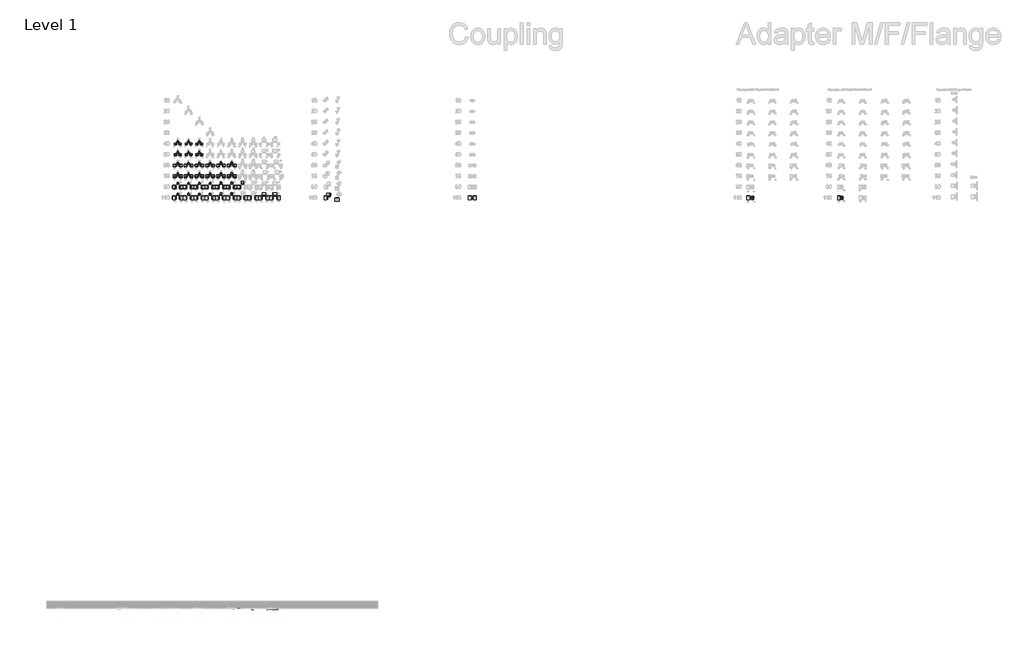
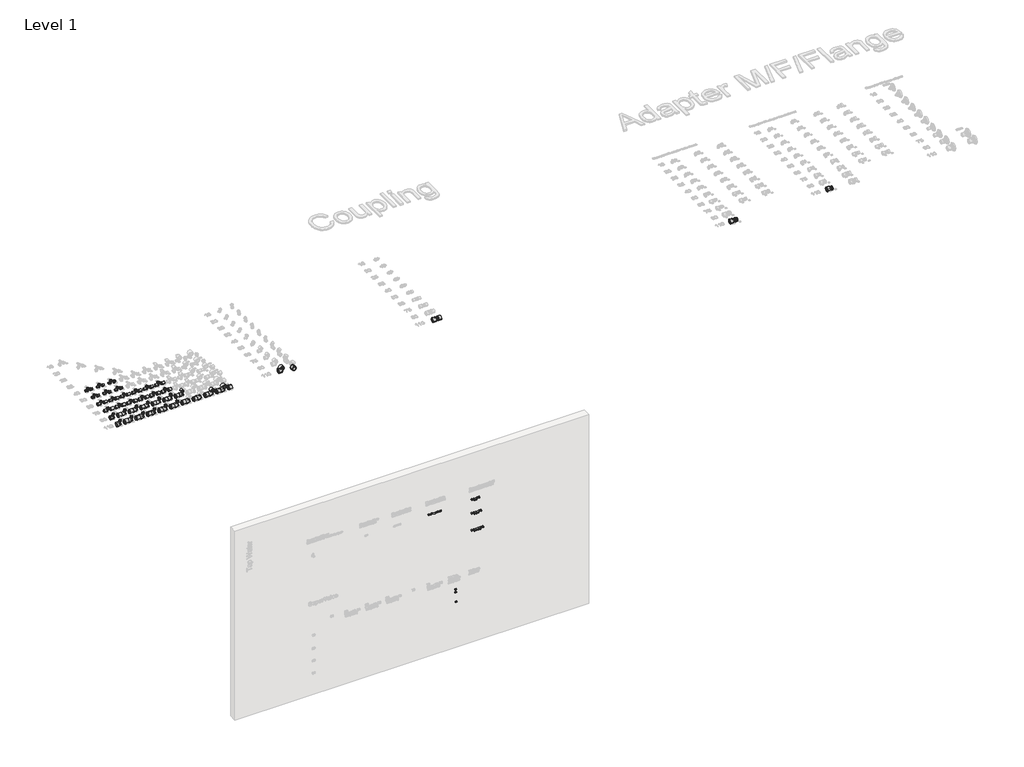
# One storey, part 2 of 58: 126 pipe fittings, 7 valves.
"""IFC4 building model written with IfcOpenShell, lengths in millimetres."""

from ifc_helpers import new_model, si_unit, origin, place, context, project, spatial, transform, mapped, element, save
from components import pipe_fitting_fd43bd29, manifold_cap_ft_2143a354, manifold_cap_mt_88d565de, rs_adapter_8da40ca7, rs_adapter_b4bbd465, rs_adapter_f82712ed, rs_adapter_ef84fdb0, rs_adapter_c6cd646c, rs_adapter_ed761ce0, rs_adapter_634e7d73, rs_adapter_fc67200b, rs_adapter_b700a1d7, rs_adapter_1ad0a11d, rs_female_adapter_0a1702e8, rs_male_adapter_f12c7176, manifold_baea2700, manifold_b658bd2c, manifold_a6c2bfd1, mounting_plate_curved_e86a9517, valve_ad88a9f9, valve_6c7f2e19, valve_fd31198a

model = new_model("IFC4")

# Units and contexts
model_context = context("Model", 3, world=origin())
ifc_project = project(units=[si_unit("LENGTHUNIT", "METRE", prefix="MILLI")], contexts=[model_context])

# Site, building, storey
site = spatial("IfcSite", under=ifc_project)
building = spatial("IfcBuilding", under=site)
storey = spatial("IfcBuildingStorey", under=building, Name="Level 1", Elevation=27.3876384)

# Pipe fittings
placement = place(None, origin())
pipe_fitting_shape = pipe_fitting_fd43bd29(model_context)
element("IfcPipeFitting", 1, ObjectType="Compression Adapter 1/2\"FT : Superpipe Compression Adapter", at=placement, inside=storey, context=model_context, shape_type="MappedRepresentation", body=[
    mapped(pipe_fitting_shape, transform((15832.3970974, 4511.8440939, 3928.2014319), x_axis=(0.0, 0.0, 1.0000000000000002), y_axis=(0.0, 1.0000000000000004, 0.0), z_axis=(-1.0000000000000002, 0.0, 0.0))),
])
element("IfcPipeFitting", 2, ObjectType="Compression Adapter 1/2\"FT : Superpipe Compression Adapter", at=placement, inside=storey, context=model_context, shape_type="MappedRepresentation", body=[
    mapped(pipe_fitting_shape, transform((15882.3970974, 4511.8440939, 3928.2014319), x_axis=(0.0, 0.0, 1.0000000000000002), y_axis=(0.0, 1.0000000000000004, 0.0), z_axis=(-1.0000000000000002, 0.0, 0.0))),
])
element("IfcPipeFitting", 3, ObjectType="Compression Adapter 1/2\"FT : Superpipe Compression Adapter", at=placement, inside=storey, context=model_context, shape_type="MappedRepresentation", body=[
    mapped(pipe_fitting_shape, transform((15832.3970974, 4511.8440939, 3550.5915778), x_axis=(0.0, 0.0, 1.0000000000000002), y_axis=(0.0, 1.0000000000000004, 0.0), z_axis=(-1.0000000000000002, 0.0, 0.0))),
])
element("IfcPipeFitting", 4, ObjectType="Compression Adapter 1/2\"FT : Superpipe Compression Adapter", at=placement, inside=storey, context=model_context, shape_type="MappedRepresentation", body=[
    mapped(pipe_fitting_shape, transform((15882.3970974, 4511.8440939, 3550.5915778), x_axis=(0.0, 0.0, 1.0000000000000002), y_axis=(0.0, 1.0000000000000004, 0.0), z_axis=(-1.0000000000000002, 0.0, 0.0))),
])
element("IfcPipeFitting", 5, ObjectType="Compression Adapter 1/2\"FT : Superpipe Compression Adapter", at=placement, inside=storey, context=model_context, shape_type="MappedRepresentation", body=[
    mapped(pipe_fitting_shape, transform((15932.3970974, 4511.8440939, 3550.5915778), x_axis=(0.0, 0.0, 1.0000000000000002), y_axis=(0.0, 1.0000000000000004, 0.0), z_axis=(-1.0000000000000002, 0.0, 0.0))),
])
element("IfcPipeFitting", 6, ObjectType="Compression Adapter 1/2\"FT : Superpipe Compression Adapter", at=placement, inside=storey, context=model_context, shape_type="MappedRepresentation", body=[
    mapped(pipe_fitting_shape, transform((15832.3970974, 4511.8440939, 3084.9820677), x_axis=(0.0, 0.0, 1.0000000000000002), y_axis=(0.0, 1.0000000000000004, 0.0), z_axis=(-1.0000000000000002, 0.0, 0.0))),
])
element("IfcPipeFitting", 7, ObjectType="Compression Adapter 1/2\"FT : Superpipe Compression Adapter", at=placement, inside=storey, context=model_context, shape_type="MappedRepresentation", body=[
    mapped(pipe_fitting_shape, transform((15882.3970974, 4511.8440939, 3084.9820677), x_axis=(0.0, 0.0, 1.0000000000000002), y_axis=(0.0, 1.0000000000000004, 0.0), z_axis=(-1.0000000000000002, 0.0, 0.0))),
])
element("IfcPipeFitting", 8, ObjectType="Compression Adapter 1/2\"FT : Superpipe Compression Adapter", at=placement, inside=storey, context=model_context, shape_type="MappedRepresentation", body=[
    mapped(pipe_fitting_shape, transform((15932.3970974, 4511.8440939, 3084.9820677), x_axis=(0.0, 0.0, 1.0000000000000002), y_axis=(0.0, 1.0000000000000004, 0.0), z_axis=(-1.0000000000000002, 0.0, 0.0))),
])
element("IfcPipeFitting", 9, ObjectType="Compression Adapter 1/2\"FT : Superpipe Compression Adapter", at=placement, inside=storey, context=model_context, shape_type="MappedRepresentation", body=[
    mapped(pipe_fitting_shape, transform((15982.3970974, 4511.8440939, 3084.9820677), x_axis=(0.0, 0.0, 1.0000000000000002), y_axis=(0.0, 1.0000000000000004, 0.0), z_axis=(-1.0000000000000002, 0.0, 0.0))),
])
manifold_cap_ft_shape = manifold_cap_ft_2143a354(model_context)
element("IfcPipeFitting", 10, ObjectType="Manifold Cap FT : Superpipe Manifold Cap With Seal- 1\" FT", at=placement, inside=storey, context=model_context, shape_type="MappedRepresentation", body=[
    mapped(manifold_cap_ft_shape, transform((15768.3970974, 4511.8440939, 3974.0856598), x_axis=(-1.0, 0.0, 0.0), y_axis=(0.0, -1.0, 0.0), z_axis=(0.0, 0.0, 1.0))),
])
element("IfcPipeFitting", 11, ObjectType="Manifold Cap FT : Superpipe Manifold Cap With Seal- 1\" FT", at=placement, inside=storey, context=model_context, shape_type="MappedRepresentation", body=[
    mapped(manifold_cap_ft_shape, transform((15768.3970974, 4511.8440939, 3596.4758057), x_axis=(-1.0, 0.0, 0.0), y_axis=(0.0, -1.0, 0.0), z_axis=(0.0, 0.0, 1.0))),
])
element("IfcPipeFitting", 12, ObjectType="Manifold Cap FT : Superpipe Manifold Cap With Seal- 1\" FT", at=placement, inside=storey, context=model_context, shape_type="MappedRepresentation", body=[
    mapped(manifold_cap_ft_shape, transform((15768.3970974, 4511.8440939, 3130.8662956), x_axis=(-1.0, 0.0, 0.0), y_axis=(0.0, -1.0, 0.0), z_axis=(0.0, 0.0, 1.0))),
])
manifold_cap_mt_shape = manifold_cap_mt_88d565de(model_context)
element("IfcPipeFitting", 13, ObjectType="Manifold Cap MT : Superpipe manifold Cap with seal- 1“MT", at=placement, inside=storey, context=model_context, shape_type="MappedRepresentation", body=[
    mapped(manifold_cap_mt_shape, transform((15941.7970974, 4511.8440939, 3974.0856598), x_axis=(1.0, 0.0, 0.0), y_axis=(0.0, -1.0, 0.0), z_axis=(0.0, 0.0, -1.0))),
])
element("IfcPipeFitting", 14, ObjectType="Manifold Cap MT : Superpipe manifold Cap with seal- 1“MT", at=placement, inside=storey, context=model_context, shape_type="MappedRepresentation", body=[
    mapped(manifold_cap_mt_shape, transform((15991.7970974, 4511.8440939, 3596.4755454), x_axis=(1.0, 0.0, 0.0), y_axis=(0.0, -1.0, 0.0), z_axis=(0.0, 0.0, -1.0))),
])
element("IfcPipeFitting", 15, ObjectType="Manifold Cap MT : Superpipe manifold Cap with seal- 1“MT", at=placement, inside=storey, context=model_context, shape_type="MappedRepresentation", body=[
    mapped(manifold_cap_mt_shape, transform((16041.7970974, 4511.8440939, 3130.8660352), x_axis=(1.0, 0.0, 0.0), y_axis=(0.0, -1.0, 0.0), z_axis=(0.0, 0.0, -1.0))),
])
rs_adapter_shape = rs_adapter_8da40ca7(model_context)
element("IfcPipeFitting", 16, ObjectType="RS Adapter : Superpipe RS Press Adapter", at=placement, inside=storey, context=model_context, shape_type="MappedRepresentation", body=[
    mapped(rs_adapter_shape, transform((13313.8568613, 15946.8081159, 27.3876384), x_axis=(1.0, 0.0, 0.0), y_axis=(0.0, 1.0, 0.0), z_axis=(0.0, 0.0, 1.0))),
])
element("IfcPipeFitting", 17, ObjectType="RS Adapter : Superpipe RS Press Adapter", at=placement, inside=storey, context=model_context, shape_type="MappedRepresentation", body=[
    mapped(rs_adapter_shape, transform((13217.8568613, 15946.8081159, 27.3876384), x_axis=(-1.0000000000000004, 0.0, 0.0), y_axis=(0.0, -1.0000000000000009, 0.0), z_axis=(0.0, 0.0, 1.0000000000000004))),
])
element("IfcPipeFitting", 18, ObjectType="RS Adapter : Superpipe RS Press Adapter", at=placement, inside=storey, context=model_context, shape_type="MappedRepresentation", body=[
    mapped(rs_adapter_shape, transform((13613.8568613, 15946.8081159, 27.3876384), x_axis=(1.0, 0.0, 0.0), y_axis=(0.0, 1.0, 0.0), z_axis=(0.0, 0.0, 1.0))),
])
element("IfcPipeFitting", 19, ObjectType="RS Adapter : Superpipe RS Press Adapter", at=placement, inside=storey, context=model_context, shape_type="MappedRepresentation", body=[
    mapped(rs_adapter_shape, transform((13517.8568613, 15946.8081159, 27.3876384), x_axis=(-1.0000000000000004, 0.0, 0.0), y_axis=(0.0, -1.0000000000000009, 0.0), z_axis=(0.0, 0.0, 1.0000000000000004))),
])
element("IfcPipeFitting", 20, ObjectType="RS Adapter : Superpipe RS Press Adapter", at=placement, inside=storey, context=model_context, shape_type="MappedRepresentation", body=[
    mapped(rs_adapter_shape, transform((13913.8568613, 15946.8081159, 27.3876384), x_axis=(1.0, 0.0, 0.0), y_axis=(0.0, 1.0, 0.0), z_axis=(0.0, 0.0, 1.0))),
])
element("IfcPipeFitting", 21, ObjectType="RS Adapter : Superpipe RS Press Adapter", at=placement, inside=storey, context=model_context, shape_type="MappedRepresentation", body=[
    mapped(rs_adapter_shape, transform((13817.8568613, 15946.8081159, 27.3876384), x_axis=(-1.0000000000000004, 0.0, 0.0), y_axis=(0.0, -1.0000000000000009, 0.0), z_axis=(0.0, 0.0, 1.0000000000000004))),
])
element("IfcPipeFitting", 22, ObjectType="RS Adapter : Superpipe RS Press Adapter", at=placement, inside=storey, context=model_context, shape_type="MappedRepresentation", body=[
    mapped(rs_adapter_shape, transform((15705.8568613, 15946.8081159, 27.3876384), x_axis=(1.0, 0.0, 0.0), y_axis=(0.0, 1.0, 0.0), z_axis=(0.0, 0.0, 1.0))),
])
element("IfcPipeFitting", 23, ObjectType="RS Adapter : Superpipe RS Press Adapter", at=placement, inside=storey, context=model_context, shape_type="MappedRepresentation", body=[
    mapped(rs_adapter_shape, transform((15609.8568613, 15946.8081159, 27.3876384), x_axis=(-1.0000000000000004, 0.0, 0.0), y_axis=(0.0, -1.0000000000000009, 0.0), z_axis=(0.0, 0.0, 1.0000000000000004))),
])
element("IfcPipeFitting", 24, ObjectType="RS Adapter : Superpipe RS Press Adapter", at=placement, inside=storey, context=model_context, shape_type="MappedRepresentation", body=[
    mapped(rs_adapter_shape, transform((16013.8568613, 15946.8081159, 27.3876384), x_axis=(1.0, 0.0, 0.0), y_axis=(0.0, 1.0, 0.0), z_axis=(0.0, 0.0, 1.0))),
])
element("IfcPipeFitting", 25, ObjectType="RS Adapter : Superpipe RS Press Adapter", at=placement, inside=storey, context=model_context, shape_type="MappedRepresentation", body=[
    mapped(rs_adapter_shape, transform((15965.8568613, 15994.8081159, 27.3876384), x_axis=(0.0, 1.0000000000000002, 0.0), y_axis=(-1.0000000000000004, 0.0, 0.0), z_axis=(0.0, 0.0, 1.0000000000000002))),
])
element("IfcPipeFitting", 26, ObjectType="RS Adapter : Superpipe RS Press Adapter", at=placement, inside=storey, context=model_context, shape_type="MappedRepresentation", body=[
    mapped(rs_adapter_shape, transform((15917.8568613, 15946.8081159, 27.3876384), x_axis=(-1.0000000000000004, 0.0, 0.0), y_axis=(0.0, -1.0000000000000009, 0.0), z_axis=(0.0, 0.0, 1.0000000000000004))),
])
element("IfcPipeFitting", 27, ObjectType="RS Adapter : Superpipe RS Press Adapter", at=placement, inside=storey, context=model_context, shape_type="MappedRepresentation", body=[
    mapped(rs_adapter_shape, transform((21437.9646899, 15946.8081159, 27.3876384), x_axis=(-1.0000000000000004, 0.0, 0.0), y_axis=(0.0, 1.0000000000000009, 0.0), z_axis=(0.0, 0.0, -1.0000000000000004))),
])
element("IfcPipeFitting", 28, ObjectType="RS Adapter : Superpipe RS Press Adapter", at=placement, inside=storey, context=model_context, shape_type="MappedRepresentation", body=[
    mapped(rs_adapter_shape, transform((21455.9646899, 15946.8081159, 27.3876384), x_axis=(1.0000000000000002, 0.0, 0.0), y_axis=(0.0, -1.0000000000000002, 0.0), z_axis=(0.0, 0.0, -1.0))),
])
element("IfcPipeFitting", 29, ObjectType="RS Adapter : Superpipe RS Press Adapter", at=placement, inside=storey, context=model_context, shape_type="MappedRepresentation", body=[
    mapped(rs_adapter_shape, transform((29176.6568613, 15946.8081159, 27.3876384), x_axis=(-1.0, 0.0, 0.0), y_axis=(0.0, 1.0, 0.0), z_axis=(0.0, 0.0, -1.0))),
])
element("IfcPipeFitting", 30, ObjectType="RS Adapter : Superpipe RS Press Adapter", at=placement, inside=storey, context=model_context, shape_type="MappedRepresentation", body=[
    mapped(rs_adapter_shape, transform((31696.6568613, 15946.8081159, 27.3876384), x_axis=(-1.0000000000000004, 0.0, 0.0), y_axis=(0.0, 1.0000000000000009, 0.0), z_axis=(0.0, 0.0, -1.0000000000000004))),
])
element("IfcPipeFitting", 31, ObjectType="RS Adapter : Superpipe RS Press Adapter", at=placement, inside=storey, context=model_context, shape_type="MappedRepresentation", body=[
    mapped(rs_adapter_shape, transform((17459.3568613, 15977.8081159, 27.3876384), x_axis=(0.0, 1.000000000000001, 0.0), y_axis=(-1.0000000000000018, 0.0, 0.0), z_axis=(0.0, 0.0, 1.0000000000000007))),
])
element("IfcPipeFitting", 32, ObjectType="RS Adapter : Superpipe RS Press Adapter", at=placement, inside=storey, context=model_context, shape_type="MappedRepresentation", body=[
    mapped(rs_adapter_shape, transform((17428.3568613, 15946.8081159, 27.3876384), x_axis=(-1.0000000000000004, 0.0, 0.0), y_axis=(0.0, -1.0000000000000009, 0.0), z_axis=(0.0, 0.0, 1.0000000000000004))),
])
element("IfcPipeFitting", 33, ObjectType="RS Adapter : Superpipe RS Press Adapter", at=placement, inside=storey, context=model_context, shape_type="MappedRepresentation", body=[
    mapped(rs_adapter_shape, transform((17689.2955265, 15954.8896532, 27.3876384), x_axis=(0.0, -1.000000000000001, 0.0), y_axis=(1.0000000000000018, 0.0, 0.0), z_axis=(0.0, 0.0, 1.0000000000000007))),
])
element("IfcPipeFitting", 34, ObjectType="RS Adapter : Superpipe RS Press Adapter", at=placement, inside=storey, context=model_context, shape_type="MappedRepresentation", body=[
    mapped(rs_adapter_shape, transform((15405.2392827, 15946.8081159, 27.3876384), x_axis=(1.0, 0.0, 0.0), y_axis=(0.0, 1.0, 0.0), z_axis=(0.0, 0.0, 1.0))),
])
element("IfcPipeFitting", 35, ObjectType="RS Adapter : Superpipe RS Press Adapter", at=placement, inside=storey, context=model_context, shape_type="MappedRepresentation", body=[
    mapped(rs_adapter_shape, transform((15309.2392827, 15946.8081159, 27.3876384), x_axis=(-1.0000000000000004, 0.0, 0.0), y_axis=(0.0, -1.0000000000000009, 0.0), z_axis=(0.0, 0.0, 1.0000000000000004))),
])
element("IfcPipeFitting", 36, ObjectType="RS Adapter : Superpipe RS Press Adapter", at=placement, inside=storey, context=model_context, shape_type="MappedRepresentation", body=[
    mapped(rs_adapter_shape, transform((15105.765703, 15946.8081159, 27.3876384), x_axis=(1.0, 0.0, 0.0), y_axis=(0.0, 1.0, 0.0), z_axis=(0.0, 0.0, 1.0))),
])
element("IfcPipeFitting", 37, ObjectType="RS Adapter : Superpipe RS Press Adapter", at=placement, inside=storey, context=model_context, shape_type="MappedRepresentation", body=[
    mapped(rs_adapter_shape, transform((15009.765703, 15946.8081159, 27.3876384), x_axis=(-1.0000000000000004, 0.0, 0.0), y_axis=(0.0, -1.0000000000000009, 0.0), z_axis=(0.0, 0.0, 1.0000000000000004))),
])
element("IfcPipeFitting", 38, ObjectType="RS Adapter : Superpipe RS Press Adapter", at=placement, inside=storey, context=model_context, shape_type="MappedRepresentation", body=[
    mapped(rs_adapter_shape, transform((14809.5592318, 15946.8081159, 27.3876384), x_axis=(1.0, 0.0, 0.0), y_axis=(0.0, 1.0, 0.0), z_axis=(0.0, 0.0, 1.0))),
])
element("IfcPipeFitting", 39, ObjectType="RS Adapter : Superpipe RS Press Adapter", at=placement, inside=storey, context=model_context, shape_type="MappedRepresentation", body=[
    mapped(rs_adapter_shape, transform((14713.5592318, 15946.8081159, 27.3876384), x_axis=(-1.0000000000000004, 0.0, 0.0), y_axis=(0.0, -1.0000000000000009, 0.0), z_axis=(0.0, 0.0, 1.0000000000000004))),
])
element("IfcPipeFitting", 40, ObjectType="RS Adapter : Superpipe RS Press Adapter", at=placement, inside=storey, context=model_context, shape_type="MappedRepresentation", body=[
    mapped(rs_adapter_shape, transform((14508.4742183, 15946.8081159, 27.3876384), x_axis=(1.0, 0.0, 0.0), y_axis=(0.0, 1.0, 0.0), z_axis=(0.0, 0.0, 1.0))),
])
element("IfcPipeFitting", 41, ObjectType="RS Adapter : Superpipe RS Press Adapter", at=placement, inside=storey, context=model_context, shape_type="MappedRepresentation", body=[
    mapped(rs_adapter_shape, transform((14412.4742183, 15946.8081159, 27.3876384), x_axis=(-1.0000000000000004, 0.0, 0.0), y_axis=(0.0, -1.0000000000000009, 0.0), z_axis=(0.0, 0.0, 1.0000000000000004))),
])
element("IfcPipeFitting", 42, ObjectType="RS Adapter : Superpipe RS Press Adapter", at=placement, inside=storey, context=model_context, shape_type="MappedRepresentation", body=[
    mapped(rs_adapter_shape, transform((14211.0780706, 15945.8788923, 27.3876384), x_axis=(1.0, 0.0, 0.0), y_axis=(0.0, 1.0, 0.0), z_axis=(0.0, 0.0, 1.0))),
])
element("IfcPipeFitting", 43, ObjectType="RS Adapter : Superpipe RS Press Adapter", at=placement, inside=storey, context=model_context, shape_type="MappedRepresentation", body=[
    mapped(rs_adapter_shape, transform((14115.0780706, 15945.8788923, 27.3876384), x_axis=(-1.0000000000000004, 0.0, 0.0), y_axis=(0.0, -1.0000000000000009, 0.0), z_axis=(0.0, 0.0, 1.0000000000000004))),
])
rs_adapter_2_shape = rs_adapter_b4bbd465(model_context)
element("IfcPipeFitting", 44, ObjectType="RS Adapter : Superpipe RS Press Adapter", at=placement, inside=storey, context=model_context, shape_type="MappedRepresentation", body=[
    mapped(rs_adapter_2_shape, transform((13265.8568613, 16021.8081159, 27.3876384), x_axis=(0.0, 1.0000000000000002, 0.0), y_axis=(-1.0000000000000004, 0.0, 0.0), z_axis=(0.0, 0.0, 1.0000000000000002))),
])
element("IfcPipeFitting", 45, ObjectType="RS Adapter : Superpipe RS Press Adapter", at=placement, inside=storey, context=model_context, shape_type="MappedRepresentation", body=[
    mapped(rs_adapter_2_shape, transform((13265.8568613, 16321.8081159, 27.3876384), x_axis=(0.0, 1.0000000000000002, 0.0), y_axis=(1.0000000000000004, 0.0, 0.0), z_axis=(0.0, 0.0, -1.0000000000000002))),
])
element("IfcPipeFitting", 46, ObjectType="RS Adapter : Superpipe RS Press Adapter", at=placement, inside=storey, context=model_context, shape_type="MappedRepresentation", body=[
    mapped(rs_adapter_2_shape, transform((13265.8568613, 17477.8081159, 27.3876384), x_axis=(0.0, 1.0000000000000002, 0.0), y_axis=(1.0000000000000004, 0.0, 0.0), z_axis=(0.0, 0.0, -1.0000000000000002))),
])
element("IfcPipeFitting", 47, ObjectType="RS Adapter : Superpipe RS Press Adapter", at=placement, inside=storey, context=model_context, shape_type="MappedRepresentation", body=[
    mapped(rs_adapter_2_shape, transform((13265.8568613, 17177.8081159, 27.3876384), x_axis=(0.0, 1.0000000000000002, 0.0), y_axis=(1.0000000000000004, 0.0, 0.0), z_axis=(0.0, 0.0, -1.0000000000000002))),
])
element("IfcPipeFitting", 48, ObjectType="RS Adapter : Superpipe RS Press Adapter", at=placement, inside=storey, context=model_context, shape_type="MappedRepresentation", body=[
    mapped(rs_adapter_2_shape, transform((13265.8568613, 16877.8081159, 27.3876384), x_axis=(0.0, 1.0000000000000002, 0.0), y_axis=(1.0000000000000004, 0.0, 0.0), z_axis=(0.0, 0.0, -1.0000000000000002))),
])
element("IfcPipeFitting", 49, ObjectType="RS Adapter : Superpipe RS Press Adapter", at=placement, inside=storey, context=model_context, shape_type="MappedRepresentation", body=[
    mapped(rs_adapter_2_shape, transform((13265.8568613, 16577.8081159, 27.3876384), x_axis=(0.0, 1.0000000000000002, 0.0), y_axis=(1.0000000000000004, 0.0, 0.0), z_axis=(0.0, 0.0, -1.0000000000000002))),
])
rs_adapter_3_shape = rs_adapter_f82712ed(model_context)
element("IfcPipeFitting", 50, ObjectType="RS Adapter : Superpipe RS Press Adapter", at=placement, inside=storey, context=model_context, shape_type="MappedRepresentation", body=[
    mapped(rs_adapter_3_shape, transform((13565.8568613, 16021.8081159, 27.3876384), x_axis=(0.0, 1.0000000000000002, 0.0), y_axis=(-1.0000000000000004, 0.0, 0.0), z_axis=(0.0, 0.0, 1.0000000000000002))),
])
element("IfcPipeFitting", 51, ObjectType="RS Adapter : Superpipe RS Press Adapter", at=placement, inside=storey, context=model_context, shape_type="MappedRepresentation", body=[
    mapped(rs_adapter_3_shape, transform((13565.8568613, 16321.8081159, 27.3876384), x_axis=(0.0, 1.0000000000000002, 0.0), y_axis=(1.0000000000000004, 0.0, 0.0), z_axis=(0.0, 0.0, -1.0000000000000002))),
])
element("IfcPipeFitting", 52, ObjectType="RS Adapter : Superpipe RS Press Adapter", at=placement, inside=storey, context=model_context, shape_type="MappedRepresentation", body=[
    mapped(rs_adapter_3_shape, transform((13565.8568613, 17477.8081159, 27.3876384), x_axis=(0.0, 1.0000000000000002, 0.0), y_axis=(1.0000000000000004, 0.0, 0.0), z_axis=(0.0, 0.0, -1.0000000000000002))),
])
element("IfcPipeFitting", 53, ObjectType="RS Adapter : Superpipe RS Press Adapter", at=placement, inside=storey, context=model_context, shape_type="MappedRepresentation", body=[
    mapped(rs_adapter_3_shape, transform((13565.8568613, 17177.8081159, 27.3876384), x_axis=(0.0, 1.0000000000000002, 0.0), y_axis=(1.0000000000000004, 0.0, 0.0), z_axis=(0.0, 0.0, -1.0000000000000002))),
])
element("IfcPipeFitting", 54, ObjectType="RS Adapter : Superpipe RS Press Adapter", at=placement, inside=storey, context=model_context, shape_type="MappedRepresentation", body=[
    mapped(rs_adapter_3_shape, transform((13565.8568613, 16877.8081159, 27.3876384), x_axis=(0.0, 1.0000000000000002, 0.0), y_axis=(1.0000000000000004, 0.0, 0.0), z_axis=(0.0, 0.0, -1.0000000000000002))),
])
element("IfcPipeFitting", 55, ObjectType="RS Adapter : Superpipe RS Press Adapter", at=placement, inside=storey, context=model_context, shape_type="MappedRepresentation", body=[
    mapped(rs_adapter_3_shape, transform((13565.8568613, 16577.8081159, 27.3876384), x_axis=(0.0, 1.0000000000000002, 0.0), y_axis=(1.0000000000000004, 0.0, 0.0), z_axis=(0.0, 0.0, -1.0000000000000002))),
])
rs_adapter_4_shape = rs_adapter_ef84fdb0(model_context)
element("IfcPipeFitting", 56, ObjectType="RS Adapter : Superpipe RS Press Adapter", at=placement, inside=storey, context=model_context, shape_type="MappedRepresentation", body=[
    mapped(rs_adapter_4_shape, transform((13865.8568613, 16021.8081159, 27.3876384), x_axis=(0.0, 1.0000000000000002, 0.0), y_axis=(-1.0000000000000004, 0.0, 0.0), z_axis=(0.0, 0.0, 1.0000000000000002))),
])
element("IfcPipeFitting", 57, ObjectType="RS Adapter : Superpipe RS Press Adapter", at=placement, inside=storey, context=model_context, shape_type="MappedRepresentation", body=[
    mapped(rs_adapter_4_shape, transform((13865.8568613, 16321.8081159, 27.3876384), x_axis=(0.0, 1.0000000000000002, 0.0), y_axis=(1.0000000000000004, 0.0, 0.0), z_axis=(0.0, 0.0, -1.0000000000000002))),
])
element("IfcPipeFitting", 58, ObjectType="RS Adapter : Superpipe RS Press Adapter", at=placement, inside=storey, context=model_context, shape_type="MappedRepresentation", body=[
    mapped(rs_adapter_4_shape, transform((13865.8568613, 17477.8081159, 27.3876384), x_axis=(0.0, 1.0000000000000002, 0.0), y_axis=(1.0000000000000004, 0.0, 0.0), z_axis=(0.0, 0.0, -1.0000000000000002))),
])
element("IfcPipeFitting", 59, ObjectType="RS Adapter : Superpipe RS Press Adapter", at=placement, inside=storey, context=model_context, shape_type="MappedRepresentation", body=[
    mapped(rs_adapter_4_shape, transform((13865.8568613, 17177.8081159, 27.3876384), x_axis=(0.0, 1.0000000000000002, 0.0), y_axis=(1.0000000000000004, 0.0, 0.0), z_axis=(0.0, 0.0, -1.0000000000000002))),
])
element("IfcPipeFitting", 60, ObjectType="RS Adapter : Superpipe RS Press Adapter", at=placement, inside=storey, context=model_context, shape_type="MappedRepresentation", body=[
    mapped(rs_adapter_4_shape, transform((13865.8568613, 16877.8081159, 27.3876384), x_axis=(0.0, 1.0000000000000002, 0.0), y_axis=(1.0000000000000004, 0.0, 0.0), z_axis=(0.0, 0.0, -1.0000000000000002))),
])
element("IfcPipeFitting", 61, ObjectType="RS Adapter : Superpipe RS Press Adapter", at=placement, inside=storey, context=model_context, shape_type="MappedRepresentation", body=[
    mapped(rs_adapter_4_shape, transform((13865.8568613, 16577.8081159, 27.3876384), x_axis=(0.0, 1.0000000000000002, 0.0), y_axis=(1.0000000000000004, 0.0, 0.0), z_axis=(0.0, 0.0, -1.0000000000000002))),
])
rs_adapter_5_shape = rs_adapter_c6cd646c(model_context)
element("IfcPipeFitting", 62, ObjectType="RS Adapter : Superpipe RS Press Adapter", at=placement, inside=storey, context=model_context, shape_type="MappedRepresentation", body=[
    mapped(rs_adapter_5_shape, transform((15657.8568613, 15994.8081159, 27.3876384), x_axis=(0.0, 1.0000000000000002, 0.0), y_axis=(-1.0000000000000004, 0.0, 0.0), z_axis=(0.0, 0.0, 1.0000000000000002))),
])
element("IfcPipeFitting", 63, ObjectType="RS Adapter : Superpipe RS Press Adapter", at=placement, inside=storey, context=model_context, shape_type="MappedRepresentation", body=[
    mapped(rs_adapter_5_shape, transform((13217.8568613, 16246.8081159, 27.3876384), x_axis=(-1.0, 0.0, 0.0), y_axis=(0.0, 1.0, 0.0), z_axis=(0.0, 0.0, -1.0))),
])
element("IfcPipeFitting", 64, ObjectType="RS Adapter : Superpipe RS Press Adapter", at=placement, inside=storey, context=model_context, shape_type="MappedRepresentation", body=[
    mapped(rs_adapter_5_shape, transform((13313.8568613, 16246.8081159, 27.3876384), x_axis=(1.0000000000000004, 0.0, 0.0), y_axis=(0.0, -1.0000000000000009, 0.0), z_axis=(0.0, 0.0, -1.0000000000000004))),
])
element("IfcPipeFitting", 65, ObjectType="RS Adapter : Superpipe RS Press Adapter", at=placement, inside=storey, context=model_context, shape_type="MappedRepresentation", body=[
    mapped(rs_adapter_5_shape, transform((13517.8568613, 16246.8081159, 27.3876384), x_axis=(-1.0, 0.0, 0.0), y_axis=(0.0, 1.0, 0.0), z_axis=(0.0, 0.0, -1.0))),
])
element("IfcPipeFitting", 66, ObjectType="RS Adapter : Superpipe RS Press Adapter", at=placement, inside=storey, context=model_context, shape_type="MappedRepresentation", body=[
    mapped(rs_adapter_5_shape, transform((13613.8568613, 16246.8081159, 27.3876384), x_axis=(1.0000000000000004, 0.0, 0.0), y_axis=(0.0, -1.0000000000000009, 0.0), z_axis=(0.0, 0.0, -1.0000000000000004))),
])
element("IfcPipeFitting", 67, ObjectType="RS Adapter : Superpipe RS Press Adapter", at=placement, inside=storey, context=model_context, shape_type="MappedRepresentation", body=[
    mapped(rs_adapter_5_shape, transform((13817.8568613, 16246.8081159, 27.3876384), x_axis=(-1.0, 0.0, 0.0), y_axis=(0.0, 1.0, 0.0), z_axis=(0.0, 0.0, -1.0))),
])
element("IfcPipeFitting", 68, ObjectType="RS Adapter : Superpipe RS Press Adapter", at=placement, inside=storey, context=model_context, shape_type="MappedRepresentation", body=[
    mapped(rs_adapter_5_shape, transform((13913.8568613, 16246.8081159, 27.3876384), x_axis=(1.0000000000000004, 0.0, 0.0), y_axis=(0.0, -1.0000000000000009, 0.0), z_axis=(0.0, 0.0, -1.0000000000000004))),
])
element("IfcPipeFitting", 69, ObjectType="RS Adapter : Superpipe RS Press Adapter", at=placement, inside=storey, context=model_context, shape_type="MappedRepresentation", body=[
    mapped(rs_adapter_5_shape, transform((14117.8568613, 16246.8081159, 27.3876384), x_axis=(-1.0, 0.0, 0.0), y_axis=(0.0, 1.0, 0.0), z_axis=(0.0, 0.0, -1.0))),
])
element("IfcPipeFitting", 70, ObjectType="RS Adapter : Superpipe RS Press Adapter", at=placement, inside=storey, context=model_context, shape_type="MappedRepresentation", body=[
    mapped(rs_adapter_5_shape, transform((14213.8568613, 16246.8081159, 27.3876384), x_axis=(1.0000000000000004, 0.0, 0.0), y_axis=(0.0, -1.0000000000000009, 0.0), z_axis=(0.0, 0.0, -1.0000000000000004))),
])
element("IfcPipeFitting", 71, ObjectType="RS Adapter : Superpipe RS Press Adapter", at=placement, inside=storey, context=model_context, shape_type="MappedRepresentation", body=[
    mapped(rs_adapter_5_shape, transform((14417.8568613, 16246.8081159, 27.3876384), x_axis=(-1.0, 0.0, 0.0), y_axis=(0.0, 1.0, 0.0), z_axis=(0.0, 0.0, -1.0))),
])
element("IfcPipeFitting", 72, ObjectType="RS Adapter : Superpipe RS Press Adapter", at=placement, inside=storey, context=model_context, shape_type="MappedRepresentation", body=[
    mapped(rs_adapter_5_shape, transform((14513.8568613, 16246.8081159, 27.3876384), x_axis=(1.0000000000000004, 0.0, 0.0), y_axis=(0.0, -1.0000000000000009, 0.0), z_axis=(0.0, 0.0, -1.0000000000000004))),
])
element("IfcPipeFitting", 73, ObjectType="RS Adapter : Superpipe RS Press Adapter", at=placement, inside=storey, context=model_context, shape_type="MappedRepresentation", body=[
    mapped(rs_adapter_5_shape, transform((14717.8568613, 16246.8081159, 27.3876384), x_axis=(-1.0, 0.0, 0.0), y_axis=(0.0, 1.0, 0.0), z_axis=(0.0, 0.0, -1.0))),
])
element("IfcPipeFitting", 74, ObjectType="RS Adapter : Superpipe RS Press Adapter", at=placement, inside=storey, context=model_context, shape_type="MappedRepresentation", body=[
    mapped(rs_adapter_5_shape, transform((14813.8568613, 16246.8081159, 27.3876384), x_axis=(1.0000000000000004, 0.0, 0.0), y_axis=(0.0, -1.0000000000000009, 0.0), z_axis=(0.0, 0.0, -1.0000000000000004))),
])
element("IfcPipeFitting", 75, ObjectType="RS Adapter : Superpipe RS Press Adapter", at=placement, inside=storey, context=model_context, shape_type="MappedRepresentation", body=[
    mapped(rs_adapter_5_shape, transform((15017.8568613, 16246.8081159, 27.3876384), x_axis=(-1.0, 0.0, 0.0), y_axis=(0.0, 1.0, 0.0), z_axis=(0.0, 0.0, -1.0))),
])
rs_adapter_6_shape = rs_adapter_ed761ce0(model_context)
element("IfcPipeFitting", 76, ObjectType="RS Adapter : Superpipe RS Press Adapter", at=placement, inside=storey, context=model_context, shape_type="MappedRepresentation", body=[
    mapped(rs_adapter_6_shape, transform((14165.8568613, 16321.8081159, 27.3876384), x_axis=(0.0, 1.0000000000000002, 0.0), y_axis=(1.0000000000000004, 0.0, 0.0), z_axis=(0.0, 0.0, -1.0000000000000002))),
])
element("IfcPipeFitting", 77, ObjectType="RS Adapter : Superpipe RS Press Adapter", at=placement, inside=storey, context=model_context, shape_type="MappedRepresentation", body=[
    mapped(rs_adapter_6_shape, transform((14165.8568613, 16877.8081159, 27.3876384), x_axis=(0.0, 1.0000000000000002, 0.0), y_axis=(1.0000000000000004, 0.0, 0.0), z_axis=(0.0, 0.0, -1.0000000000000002))),
])
element("IfcPipeFitting", 78, ObjectType="RS Adapter : Superpipe RS Press Adapter", at=placement, inside=storey, context=model_context, shape_type="MappedRepresentation", body=[
    mapped(rs_adapter_6_shape, transform((14165.8568613, 16577.8081159, 27.3876384), x_axis=(0.0, 1.0000000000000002, 0.0), y_axis=(1.0000000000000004, 0.0, 0.0), z_axis=(0.0, 0.0, -1.0000000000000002))),
])
element("IfcPipeFitting", 79, ObjectType="RS Adapter : Superpipe RS Press Adapter", at=placement, inside=storey, context=model_context, shape_type="MappedRepresentation", body=[
    mapped(rs_adapter_6_shape, transform((14163.0780706, 16020.8788923, 27.3876384), x_axis=(0.0, 1.0000000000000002, 0.0), y_axis=(-1.0000000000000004, 0.0, 0.0), z_axis=(0.0, 0.0, 1.0000000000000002))),
])
rs_adapter_7_shape = rs_adapter_634e7d73(model_context)
element("IfcPipeFitting", 80, ObjectType="RS Adapter : Superpipe RS Press Adapter", at=placement, inside=storey, context=model_context, shape_type="MappedRepresentation", body=[
    mapped(rs_adapter_7_shape, transform((14465.8568613, 16321.8081159, 27.3876384), x_axis=(0.0, 1.0000000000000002, 0.0), y_axis=(1.0000000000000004, 0.0, 0.0), z_axis=(0.0, 0.0, -1.0000000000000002))),
])
element("IfcPipeFitting", 81, ObjectType="RS Adapter : Superpipe RS Press Adapter", at=placement, inside=storey, context=model_context, shape_type="MappedRepresentation", body=[
    mapped(rs_adapter_7_shape, transform((13234.8568613, 17446.8081159, 27.3876384), x_axis=(-1.0, 0.0, 0.0), y_axis=(0.0, 1.0, 0.0), z_axis=(0.0, 0.0, -1.0))),
])
element("IfcPipeFitting", 82, ObjectType="RS Adapter : Superpipe RS Press Adapter", at=placement, inside=storey, context=model_context, shape_type="MappedRepresentation", body=[
    mapped(rs_adapter_7_shape, transform((13296.8568613, 17446.8081159, 27.3876384), x_axis=(1.0000000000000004, 0.0, 0.0), y_axis=(0.0, -1.0000000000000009, 0.0), z_axis=(0.0, 0.0, -1.0000000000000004))),
])
element("IfcPipeFitting", 83, ObjectType="RS Adapter : Superpipe RS Press Adapter", at=placement, inside=storey, context=model_context, shape_type="MappedRepresentation", body=[
    mapped(rs_adapter_7_shape, transform((13534.8568613, 17446.8081159, 27.3876384), x_axis=(-1.0, 0.0, 0.0), y_axis=(0.0, 1.0, 0.0), z_axis=(0.0, 0.0, -1.0))),
])
element("IfcPipeFitting", 84, ObjectType="RS Adapter : Superpipe RS Press Adapter", at=placement, inside=storey, context=model_context, shape_type="MappedRepresentation", body=[
    mapped(rs_adapter_7_shape, transform((13596.8568613, 17446.8081159, 27.3876384), x_axis=(1.0000000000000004, 0.0, 0.0), y_axis=(0.0, -1.0000000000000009, 0.0), z_axis=(0.0, 0.0, -1.0000000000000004))),
])
element("IfcPipeFitting", 85, ObjectType="RS Adapter : Superpipe RS Press Adapter", at=placement, inside=storey, context=model_context, shape_type="MappedRepresentation", body=[
    mapped(rs_adapter_7_shape, transform((13834.8568613, 17446.8081159, 27.3876384), x_axis=(-1.0, 0.0, 0.0), y_axis=(0.0, 1.0, 0.0), z_axis=(0.0, 0.0, -1.0))),
])
element("IfcPipeFitting", 86, ObjectType="RS Adapter : Superpipe RS Press Adapter", at=placement, inside=storey, context=model_context, shape_type="MappedRepresentation", body=[
    mapped(rs_adapter_7_shape, transform((13896.8568613, 17446.8081159, 27.3876384), x_axis=(1.0000000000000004, 0.0, 0.0), y_axis=(0.0, -1.0000000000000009, 0.0), z_axis=(0.0, 0.0, -1.0000000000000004))),
])
element("IfcPipeFitting", 87, ObjectType="RS Adapter : Superpipe RS Press Adapter", at=placement, inside=storey, context=model_context, shape_type="MappedRepresentation", body=[
    mapped(rs_adapter_7_shape, transform((14465.8568613, 16877.8081159, 27.3876384), x_axis=(0.0, 1.0000000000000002, 0.0), y_axis=(1.0000000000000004, 0.0, 0.0), z_axis=(0.0, 0.0, -1.0000000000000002))),
])
element("IfcPipeFitting", 88, ObjectType="RS Adapter : Superpipe RS Press Adapter", at=placement, inside=storey, context=model_context, shape_type="MappedRepresentation", body=[
    mapped(rs_adapter_7_shape, transform((14465.8568613, 16577.8081159, 27.3876384), x_axis=(0.0, 1.0000000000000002, 0.0), y_axis=(1.0000000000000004, 0.0, 0.0), z_axis=(0.0, 0.0, -1.0000000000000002))),
])
element("IfcPipeFitting", 89, ObjectType="RS Adapter : Superpipe RS Press Adapter", at=placement, inside=storey, context=model_context, shape_type="MappedRepresentation", body=[
    mapped(rs_adapter_7_shape, transform((14460.4742183, 16021.8081159, 27.3876384), x_axis=(0.0, 1.0000000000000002, 0.0), y_axis=(-1.0000000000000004, 0.0, 0.0), z_axis=(0.0, 0.0, 1.0000000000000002))),
])
rs_adapter_8_shape = rs_adapter_fc67200b(model_context)
element("IfcPipeFitting", 90, ObjectType="RS Adapter : Superpipe RS Press Adapter", at=placement, inside=storey, context=model_context, shape_type="MappedRepresentation", body=[
    mapped(rs_adapter_8_shape, transform((14765.8568613, 16321.8081159, 27.3876384), x_axis=(0.0, 1.0000000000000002, 0.0), y_axis=(1.0000000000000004, 0.0, 0.0), z_axis=(0.0, 0.0, -1.0000000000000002))),
])
element("IfcPipeFitting", 91, ObjectType="RS Adapter : Superpipe RS Press Adapter", at=placement, inside=storey, context=model_context, shape_type="MappedRepresentation", body=[
    mapped(rs_adapter_8_shape, transform((13234.8568613, 17146.8081159, 27.3876384), x_axis=(-1.0, 0.0, 0.0), y_axis=(0.0, 1.0, 0.0), z_axis=(0.0, 0.0, -1.0))),
])
element("IfcPipeFitting", 92, ObjectType="RS Adapter : Superpipe RS Press Adapter", at=placement, inside=storey, context=model_context, shape_type="MappedRepresentation", body=[
    mapped(rs_adapter_8_shape, transform((13296.8568613, 17146.8081159, 27.3876384), x_axis=(1.0000000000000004, 0.0, 0.0), y_axis=(0.0, -1.0000000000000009, 0.0), z_axis=(0.0, 0.0, -1.0000000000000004))),
])
element("IfcPipeFitting", 93, ObjectType="RS Adapter : Superpipe RS Press Adapter", at=placement, inside=storey, context=model_context, shape_type="MappedRepresentation", body=[
    mapped(rs_adapter_8_shape, transform((13534.8568613, 17146.8081159, 27.3876384), x_axis=(-1.0, 0.0, 0.0), y_axis=(0.0, 1.0, 0.0), z_axis=(0.0, 0.0, -1.0))),
])
element("IfcPipeFitting", 94, ObjectType="RS Adapter : Superpipe RS Press Adapter", at=placement, inside=storey, context=model_context, shape_type="MappedRepresentation", body=[
    mapped(rs_adapter_8_shape, transform((13596.8568613, 17146.8081159, 27.3876384), x_axis=(1.0000000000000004, 0.0, 0.0), y_axis=(0.0, -1.0000000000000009, 0.0), z_axis=(0.0, 0.0, -1.0000000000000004))),
])
element("IfcPipeFitting", 95, ObjectType="RS Adapter : Superpipe RS Press Adapter", at=placement, inside=storey, context=model_context, shape_type="MappedRepresentation", body=[
    mapped(rs_adapter_8_shape, transform((13834.8568613, 17146.8081159, 27.3876384), x_axis=(-1.0, 0.0, 0.0), y_axis=(0.0, 1.0, 0.0), z_axis=(0.0, 0.0, -1.0))),
])
element("IfcPipeFitting", 96, ObjectType="RS Adapter : Superpipe RS Press Adapter", at=placement, inside=storey, context=model_context, shape_type="MappedRepresentation", body=[
    mapped(rs_adapter_8_shape, transform((13896.8568613, 17146.8081159, 27.3876384), x_axis=(1.0000000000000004, 0.0, 0.0), y_axis=(0.0, -1.0000000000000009, 0.0), z_axis=(0.0, 0.0, -1.0000000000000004))),
])
element("IfcPipeFitting", 97, ObjectType="RS Adapter : Superpipe RS Press Adapter", at=placement, inside=storey, context=model_context, shape_type="MappedRepresentation", body=[
    mapped(rs_adapter_8_shape, transform((14765.8568613, 16877.8081159, 27.3876384), x_axis=(0.0, 1.0000000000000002, 0.0), y_axis=(1.0000000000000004, 0.0, 0.0), z_axis=(0.0, 0.0, -1.0000000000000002))),
])
element("IfcPipeFitting", 98, ObjectType="RS Adapter : Superpipe RS Press Adapter", at=placement, inside=storey, context=model_context, shape_type="MappedRepresentation", body=[
    mapped(rs_adapter_8_shape, transform((14765.8568613, 16577.8081159, 27.3876384), x_axis=(0.0, 1.0000000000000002, 0.0), y_axis=(1.0000000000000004, 0.0, 0.0), z_axis=(0.0, 0.0, -1.0000000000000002))),
])
element("IfcPipeFitting", 99, ObjectType="RS Adapter : Superpipe RS Press Adapter", at=placement, inside=storey, context=model_context, shape_type="MappedRepresentation", body=[
    mapped(rs_adapter_8_shape, transform((14761.5592318, 16021.8081159, 27.3876384), x_axis=(0.0, 1.0000000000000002, 0.0), y_axis=(-1.0000000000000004, 0.0, 0.0), z_axis=(0.0, 0.0, 1.0000000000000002))),
])
rs_adapter_9_shape = rs_adapter_b700a1d7(model_context)
element("IfcPipeFitting", 100, ObjectType="RS Adapter : Superpipe RS Press Adapter", at=placement, inside=storey, context=model_context, shape_type="MappedRepresentation", body=[
    mapped(rs_adapter_9_shape, transform((13234.8568613, 16546.8081159, 27.3876384), x_axis=(-1.0, 0.0, 0.0), y_axis=(0.0, 1.0, 0.0), z_axis=(0.0, 0.0, -1.0))),
])
element("IfcPipeFitting", 101, ObjectType="RS Adapter : Superpipe RS Press Adapter", at=placement, inside=storey, context=model_context, shape_type="MappedRepresentation", body=[
    mapped(rs_adapter_9_shape, transform((13296.8568613, 16546.8081159, 27.3876384), x_axis=(1.0000000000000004, 0.0, 0.0), y_axis=(0.0, -1.0000000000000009, 0.0), z_axis=(0.0, 0.0, -1.0000000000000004))),
])
element("IfcPipeFitting", 102, ObjectType="RS Adapter : Superpipe RS Press Adapter", at=placement, inside=storey, context=model_context, shape_type="MappedRepresentation", body=[
    mapped(rs_adapter_9_shape, transform((13534.8568613, 16546.8081159, 27.3876384), x_axis=(-1.0, 0.0, 0.0), y_axis=(0.0, 1.0, 0.0), z_axis=(0.0, 0.0, -1.0))),
])
element("IfcPipeFitting", 103, ObjectType="RS Adapter : Superpipe RS Press Adapter", at=placement, inside=storey, context=model_context, shape_type="MappedRepresentation", body=[
    mapped(rs_adapter_9_shape, transform((13596.8568613, 16546.8081159, 27.3876384), x_axis=(1.0000000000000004, 0.0, 0.0), y_axis=(0.0, -1.0000000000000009, 0.0), z_axis=(0.0, 0.0, -1.0000000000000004))),
])
element("IfcPipeFitting", 104, ObjectType="RS Adapter : Superpipe RS Press Adapter", at=placement, inside=storey, context=model_context, shape_type="MappedRepresentation", body=[
    mapped(rs_adapter_9_shape, transform((13834.8568613, 16546.8081159, 27.3876384), x_axis=(-1.0, 0.0, 0.0), y_axis=(0.0, 1.0, 0.0), z_axis=(0.0, 0.0, -1.0))),
])
element("IfcPipeFitting", 105, ObjectType="RS Adapter : Superpipe RS Press Adapter", at=placement, inside=storey, context=model_context, shape_type="MappedRepresentation", body=[
    mapped(rs_adapter_9_shape, transform((13896.8568613, 16546.8081159, 27.3876384), x_axis=(1.0000000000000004, 0.0, 0.0), y_axis=(0.0, -1.0000000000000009, 0.0), z_axis=(0.0, 0.0, -1.0000000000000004))),
])
element("IfcPipeFitting", 106, ObjectType="RS Adapter : Superpipe RS Press Adapter", at=placement, inside=storey, context=model_context, shape_type="MappedRepresentation", body=[
    mapped(rs_adapter_9_shape, transform((14134.8568613, 16546.8081159, 27.3876384), x_axis=(-1.0, 0.0, 0.0), y_axis=(0.0, 1.0, 0.0), z_axis=(0.0, 0.0, -1.0))),
])
element("IfcPipeFitting", 107, ObjectType="RS Adapter : Superpipe RS Press Adapter", at=placement, inside=storey, context=model_context, shape_type="MappedRepresentation", body=[
    mapped(rs_adapter_9_shape, transform((14196.8568613, 16546.8081159, 27.3876384), x_axis=(1.0000000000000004, 0.0, 0.0), y_axis=(0.0, -1.0000000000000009, 0.0), z_axis=(0.0, 0.0, -1.0000000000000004))),
])
element("IfcPipeFitting", 108, ObjectType="RS Adapter : Superpipe RS Press Adapter", at=placement, inside=storey, context=model_context, shape_type="MappedRepresentation", body=[
    mapped(rs_adapter_9_shape, transform((14434.8568613, 16546.8081159, 27.3876384), x_axis=(-1.0, 0.0, 0.0), y_axis=(0.0, 1.0, 0.0), z_axis=(0.0, 0.0, -1.0))),
])
element("IfcPipeFitting", 109, ObjectType="RS Adapter : Superpipe RS Press Adapter", at=placement, inside=storey, context=model_context, shape_type="MappedRepresentation", body=[
    mapped(rs_adapter_9_shape, transform((14496.8568613, 16546.8081159, 27.3876384), x_axis=(1.0000000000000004, 0.0, 0.0), y_axis=(0.0, -1.0000000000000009, 0.0), z_axis=(0.0, 0.0, -1.0000000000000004))),
])
element("IfcPipeFitting", 110, ObjectType="RS Adapter : Superpipe RS Press Adapter", at=placement, inside=storey, context=model_context, shape_type="MappedRepresentation", body=[
    mapped(rs_adapter_9_shape, transform((14734.8568613, 16546.8081159, 27.3876384), x_axis=(-1.0, 0.0, 0.0), y_axis=(0.0, 1.0, 0.0), z_axis=(0.0, 0.0, -1.0))),
])
element("IfcPipeFitting", 111, ObjectType="RS Adapter : Superpipe RS Press Adapter", at=placement, inside=storey, context=model_context, shape_type="MappedRepresentation", body=[
    mapped(rs_adapter_9_shape, transform((14796.8568613, 16546.8081159, 27.3876384), x_axis=(1.0000000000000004, 0.0, 0.0), y_axis=(0.0, -1.0000000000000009, 0.0), z_axis=(0.0, 0.0, -1.0000000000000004))),
])
rs_adapter_10_shape = rs_adapter_1ad0a11d(model_context)
element("IfcPipeFitting", 112, ObjectType="RS Adapter : Superpipe RS Press Adapter", at=placement, inside=storey, context=model_context, shape_type="MappedRepresentation", body=[
    mapped(rs_adapter_10_shape, transform((15065.8568613, 16321.8081159, 27.3876384), x_axis=(0.0, 1.0000000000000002, 0.0), y_axis=(1.0000000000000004, 0.0, 0.0), z_axis=(0.0, 0.0, -1.0000000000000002))),
])
element("IfcPipeFitting", 113, ObjectType="RS Adapter : Superpipe RS Press Adapter", at=placement, inside=storey, context=model_context, shape_type="MappedRepresentation", body=[
    mapped(rs_adapter_10_shape, transform((14734.8568613, 16846.8081159, 27.3876384), x_axis=(-1.0, 0.0, 0.0), y_axis=(0.0, 1.0, 0.0), z_axis=(0.0, 0.0, -1.0))),
])
element("IfcPipeFitting", 114, ObjectType="RS Adapter : Superpipe RS Press Adapter", at=placement, inside=storey, context=model_context, shape_type="MappedRepresentation", body=[
    mapped(rs_adapter_10_shape, transform((14796.8568613, 16846.8081159, 27.3876384), x_axis=(1.0000000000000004, 0.0, 0.0), y_axis=(0.0, -1.0000000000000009, 0.0), z_axis=(0.0, 0.0, -1.0000000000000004))),
])
element("IfcPipeFitting", 115, ObjectType="RS Adapter : Superpipe RS Press Adapter", at=placement, inside=storey, context=model_context, shape_type="MappedRepresentation", body=[
    mapped(rs_adapter_10_shape, transform((14434.8568613, 16846.8081159, 27.3876384), x_axis=(-1.0, 0.0, 0.0), y_axis=(0.0, 1.0, 0.0), z_axis=(0.0, 0.0, -1.0))),
])
element("IfcPipeFitting", 116, ObjectType="RS Adapter : Superpipe RS Press Adapter", at=placement, inside=storey, context=model_context, shape_type="MappedRepresentation", body=[
    mapped(rs_adapter_10_shape, transform((14496.8568613, 16846.8081159, 27.3876384), x_axis=(1.0000000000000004, 0.0, 0.0), y_axis=(0.0, -1.0000000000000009, 0.0), z_axis=(0.0, 0.0, -1.0000000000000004))),
])
element("IfcPipeFitting", 117, ObjectType="RS Adapter : Superpipe RS Press Adapter", at=placement, inside=storey, context=model_context, shape_type="MappedRepresentation", body=[
    mapped(rs_adapter_10_shape, transform((14134.8568613, 16846.8081159, 27.3876384), x_axis=(-1.0, 0.0, 0.0), y_axis=(0.0, 1.0, 0.0), z_axis=(0.0, 0.0, -1.0))),
])
element("IfcPipeFitting", 118, ObjectType="RS Adapter : Superpipe RS Press Adapter", at=placement, inside=storey, context=model_context, shape_type="MappedRepresentation", body=[
    mapped(rs_adapter_10_shape, transform((14196.8568613, 16846.8081159, 27.3876384), x_axis=(1.0000000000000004, 0.0, 0.0), y_axis=(0.0, -1.0000000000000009, 0.0), z_axis=(0.0, 0.0, -1.0000000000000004))),
])
element("IfcPipeFitting", 119, ObjectType="RS Adapter : Superpipe RS Press Adapter", at=placement, inside=storey, context=model_context, shape_type="MappedRepresentation", body=[
    mapped(rs_adapter_10_shape, transform((13834.8568613, 16846.8081159, 27.3876384), x_axis=(-1.0, 0.0, 0.0), y_axis=(0.0, 1.0, 0.0), z_axis=(0.0, 0.0, -1.0))),
])
element("IfcPipeFitting", 120, ObjectType="RS Adapter : Superpipe RS Press Adapter", at=placement, inside=storey, context=model_context, shape_type="MappedRepresentation", body=[
    mapped(rs_adapter_10_shape, transform((13896.8568613, 16846.8081159, 27.3876384), x_axis=(1.0000000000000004, 0.0, 0.0), y_axis=(0.0, -1.0000000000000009, 0.0), z_axis=(0.0, 0.0, -1.0000000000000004))),
])
element("IfcPipeFitting", 121, ObjectType="RS Adapter : Superpipe RS Press Adapter", at=placement, inside=storey, context=model_context, shape_type="MappedRepresentation", body=[
    mapped(rs_adapter_10_shape, transform((13534.8568613, 16846.8081159, 27.3876384), x_axis=(-1.0, 0.0, 0.0), y_axis=(0.0, 1.0, 0.0), z_axis=(0.0, 0.0, -1.0))),
])
element("IfcPipeFitting", 122, ObjectType="RS Adapter : Superpipe RS Press Adapter", at=placement, inside=storey, context=model_context, shape_type="MappedRepresentation", body=[
    mapped(rs_adapter_10_shape, transform((13596.8568613, 16846.8081159, 27.3876384), x_axis=(1.0000000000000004, 0.0, 0.0), y_axis=(0.0, -1.0000000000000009, 0.0), z_axis=(0.0, 0.0, -1.0000000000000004))),
])
element("IfcPipeFitting", 123, ObjectType="RS Adapter : Superpipe RS Press Adapter", at=placement, inside=storey, context=model_context, shape_type="MappedRepresentation", body=[
    mapped(rs_adapter_10_shape, transform((13234.8568613, 16846.8081159, 27.3876384), x_axis=(-1.0, 0.0, 0.0), y_axis=(0.0, 1.0, 0.0), z_axis=(0.0, 0.0, -1.0))),
])
element("IfcPipeFitting", 124, ObjectType="RS Adapter : Superpipe RS Press Adapter", at=placement, inside=storey, context=model_context, shape_type="MappedRepresentation", body=[
    mapped(rs_adapter_10_shape, transform((13296.8568613, 16846.8081159, 27.3876384), x_axis=(1.0000000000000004, 0.0, 0.0), y_axis=(0.0, -1.0000000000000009, 0.0), z_axis=(0.0, 0.0, -1.0000000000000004))),
])
rs_female_adapter_shape = rs_female_adapter_0a1702e8(model_context)
element("IfcPipeFitting", 125, ObjectType="RS Female Adapter : Superpipe RS3 FT Adapter ½”", at=placement, inside=storey, context=model_context, shape_type="MappedRepresentation", body=[
    mapped(rs_female_adapter_shape, transform((31714.6568613, 15946.8081159, 27.3876384), x_axis=(1.0, 0.0, 0.0), y_axis=(0.0, -1.0, 0.0), z_axis=(0.0, 0.0, -1.0))),
])
rs_male_adapter_shape = rs_male_adapter_f12c7176(model_context)
element("IfcPipeFitting", 126, ObjectType="RS Male Adapter : Superpipe RS3 MT Adapter 3”", at=placement, inside=storey, context=model_context, shape_type="MappedRepresentation", body=[
    mapped(rs_male_adapter_shape, transform((29194.6568613, 15946.8081159, 27.3876384), x_axis=(1.0, 0.0, 0.0), y_axis=(0.0, -1.0, 0.0), z_axis=(0.0, 0.0, -1.0))),
])

# Valves
manifold_shape = manifold_baea2700(model_context)
element("IfcValve", 127, ObjectType="Manifold : Superpipe Manifold 2 way- 1\"MT/FT x 1/2\"MT Outlets", at=placement, inside=storey, context=model_context, shape_type="MappedRepresentation", body=[
    mapped(manifold_shape, transform((15803.3970974, 4511.8440939, 3974.0856598), x_axis=(1.0, 0.0, 0.0), y_axis=(0.0, 1.0, 0.0), z_axis=(0.0, 0.0, 1.0))),
])
manifold_2_shape = manifold_b658bd2c(model_context)
element("IfcValve", 128, ObjectType="Manifold : Superpipe Manifold 3 way- 1\"MT/FT x 1/2\"MT Outlets", at=placement, inside=storey, context=model_context, shape_type="MappedRepresentation", body=[
    mapped(manifold_2_shape, transform((15803.3970974, 4511.8440939, 3596.4758057), x_axis=(1.0, 0.0, 0.0), y_axis=(0.0, 1.0, 0.0), z_axis=(0.0, 0.0, 1.0))),
])
manifold_3_shape = manifold_a6c2bfd1(model_context)
element("IfcValve", 129, ObjectType="Manifold : Superpipe Manifold 4 way- 1\"MT/FT x 1/2\"MT Outlets", at=placement, inside=storey, context=model_context, shape_type="MappedRepresentation", body=[
    mapped(manifold_3_shape, transform((15803.3970974, 4511.8440939, 3130.8662956), x_axis=(1.0, 0.0, 0.0), y_axis=(0.0, 1.0, 0.0), z_axis=(0.0, 0.0, 1.0))),
])
mounting_plate_curved_shape = mounting_plate_curved_e86a9517(model_context)
element("IfcValve", 130, ObjectType="Mounting Plate curved : Superpipe Mounting Plate - 250 mm curved", at=placement, inside=storey, context=model_context, shape_type="MappedRepresentation", body=[
    mapped(mounting_plate_curved_shape, transform((14641.3882146, 4544.8703674, 3908.5359315), x_axis=(1.0, 0.0, 0.0), y_axis=(0.0, 0.0, 1.0), z_axis=(0.0, -1.0, 0.0))),
])
valve_shape = valve_ad88a9f9(model_context)
element("IfcValve", 131, ObjectType="SuperValve T2 MT & FT Adapters : SuperValve T2 1/2\" FT Adapter", at=placement, inside=storey, context=model_context, shape_type="MappedRepresentation", body=[
    mapped(valve_shape, transform((15320.5022043, 4504.8703674, 1658.2905182), x_axis=(1.0, 0.0, 0.0), y_axis=(0.0, 1.0, 0.0), z_axis=(0.0, 0.0, 1.0))),
])
valve_2_shape = valve_6c7f2e19(model_context)
element("IfcValve", 132, ObjectType="SuperValve T2 MT & FT Adapters : SuperValve T2 1/2\" MT Adapter", at=placement, inside=storey, context=model_context, shape_type="MappedRepresentation", body=[
    mapped(valve_2_shape, transform((15320.5022043, 4504.8703674, 1580.1037734), x_axis=(1.0, 0.0, 0.0), y_axis=(0.0, 1.0, 0.0), z_axis=(0.0, 0.0, 1.0))),
])
valve_3_shape = valve_fd31198a(model_context)
element("IfcValve", 133, ObjectType="SuperValve T2 MT & FT Adapters : SuperValve T2 3/4\" MT Adapter", at=placement, inside=storey, context=model_context, shape_type="MappedRepresentation", body=[
    mapped(valve_3_shape, transform((15327.5732721, 4504.8703674, 1310.5506138), x_axis=(1.0, 0.0, 0.0), y_axis=(0.0, 1.0, 0.0), z_axis=(0.0, 0.0, 1.0))),
])

save(model, "model.ifc")
